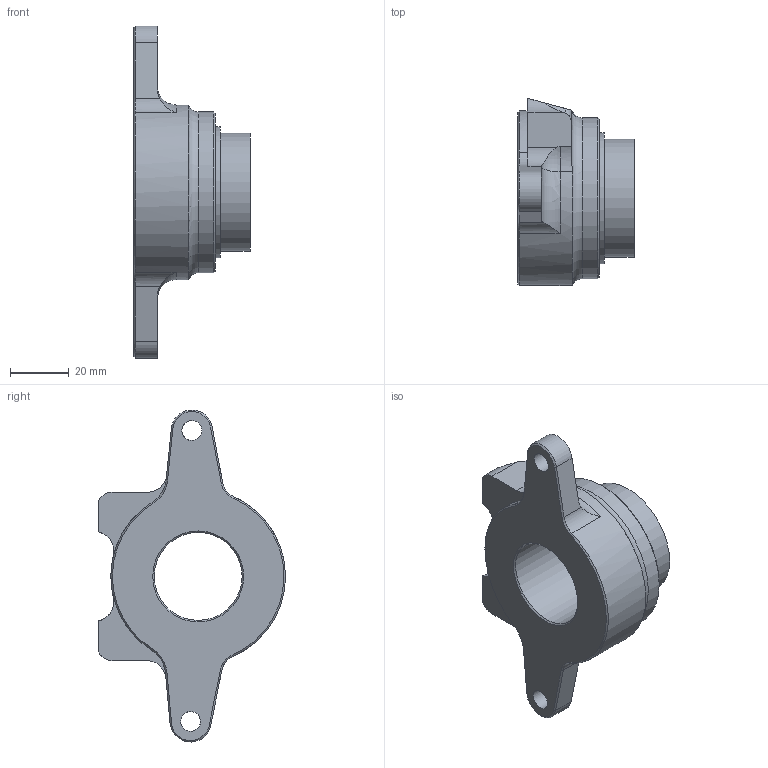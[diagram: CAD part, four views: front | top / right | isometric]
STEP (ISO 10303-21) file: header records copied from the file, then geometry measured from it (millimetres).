
FILE_DESCRIPTION(/* description */ ('Unknown'),/* implementation_level */ '2;1');
FILE_NAME(/* name */ '61-757',/* time_stamp */ '2024-07-02T10:15:54-07:00',/* author */ ('Unknown'),/* organization */ ('Unknown'),/* preprocessor_version */ 'ST-DEVELOPER v18.104',/* originating_system */ 'Solid Edge',/* authorisation */ 'Unknown');
FILE_SCHEMA (('AUTOMOTIVE_DESIGN {1 0 10303 214 3 1 1}'));
Length unit declared in the file: millimetre
Products named in the file (1): 61-757
Bounding box: 39.5 x 63.43 x 112.65 mm (x, y, z)
Volume: 71521.7 mm3; surface area: 17946.1 mm2
Topology: 1 solids, 1 shells, 71 faces, 179 edges, 113 vertices
Faces by surface type: cylinder 25, plane 23, cone 16, torus 7
Full cylindrical faces by diameter (mm): 6.756 x2, 6.955 x2, 29.845 x1, 34.925 x1, 40.03 x1, 44.45 x1, 54.61 x1
Entity records: 2605 total; most frequent: CARTESIAN_POINT 433, DIRECTION 358, ORIENTED_EDGE 316, EDGE_CURVE 158, AXIS2_PLACEMENT_3D 150, VERTEX_POINT 110, FACE_BOUND 98, EDGE_LOOP 96
